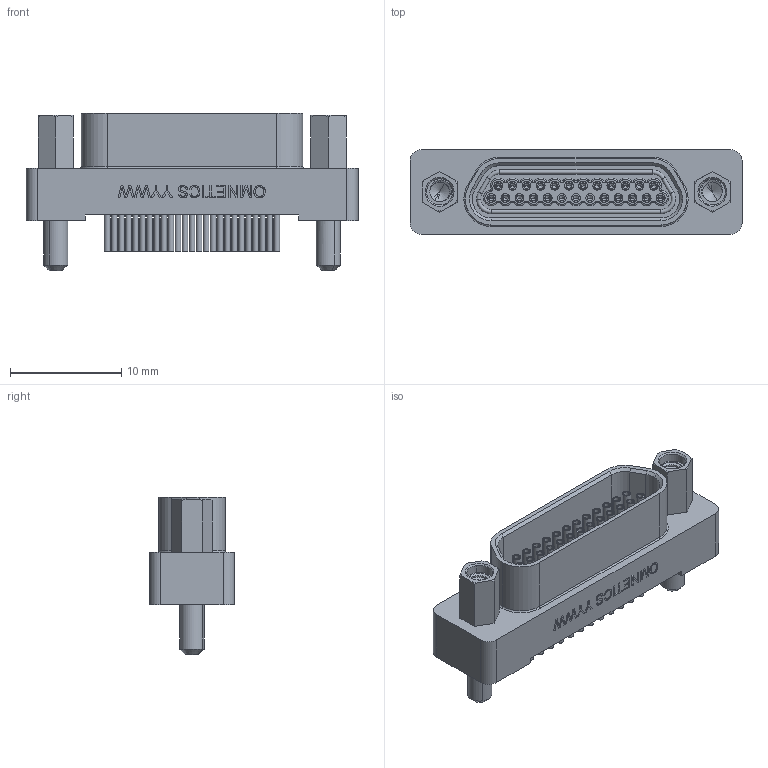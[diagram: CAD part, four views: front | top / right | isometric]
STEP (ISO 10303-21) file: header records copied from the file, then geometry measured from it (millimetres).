
FILE_DESCRIPTION (( 'STEP AP214' ), '1' );
FILE_NAME ('A99521-025 REV A.STEP', '2013-04-17T13:58:40', ( '' ), ( '' ), 'SwSTEP 2.0', 'SolidWorks 2012', '' );
FILE_SCHEMA (( 'AUTOMOTIVE_DESIGN' ));
Length unit declared in the file: inch
Products named in the file (1): A99521-025 REV A
Bounding box: 29.84 x 7.63 x 14.16 mm (x, y, z)
Volume: 1239.4 mm3; surface area: 2542.8 mm2
Topology: 1 solids, 6 shells, 1013 faces, 2400 edges, 1494 vertices
Faces by surface type: cylinder 408, plane 321, torus 113, cone 111, bspline 60
Entity records: 36498 total; most frequent: CARTESIAN_POINT 12812, DIRECTION 5040, ORIENTED_EDGE 4680, EDGE_CURVE 2340, AXIS2_PLACEMENT_3D 2002, VERTEX_POINT 1494, EDGE_LOOP 1174, CIRCLE 1048
